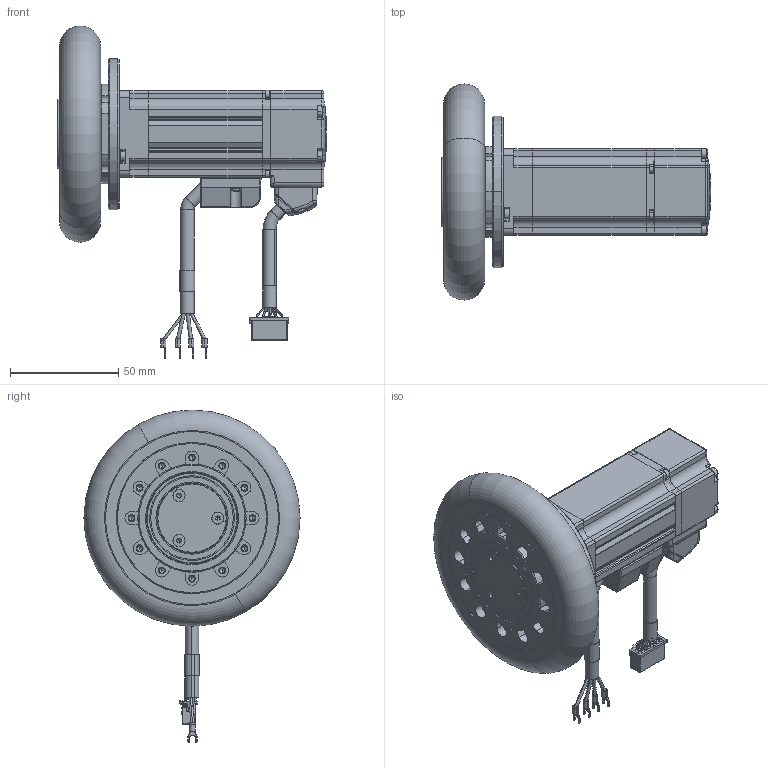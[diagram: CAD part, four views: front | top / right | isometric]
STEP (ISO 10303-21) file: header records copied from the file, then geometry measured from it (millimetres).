
FILE_DESCRIPTION((''),'2;1');
FILE_NAME('MSD100--010-30JL-0001_ASM','2026-05-20T11:24:27',('MS28159'),(''),'CREO PARAMETRIC BY PTC INC, 2018100','CREO PARAMETRIC BY PTC INC, 2018100','');
FILE_SCHEMA(('CONFIG_CONTROL_DESIGN'));
Length unit declared in the file: millimetre
Products named in the file (63): 4294404004348_-1720001_1; 4294404004348_-6520001_1; NONE_1_2_1; 4294404004348_-1310001_1; 0226-42191201014230001_1; 4294404004348_-1850001_1; 4294404004348_-1860001_1; 4294404004348_-1930001_1; 4294404004348_-1940001_1; 4294404004348_-1950001_1; AEQ-042C-004-01__X2_65E0530580F_ASM; 2_100_1-23134; 3698201102390_40SV__X2_530580_1_ASM; ASM0007_ASM_1_ASM; _1-SOLID10001_1; SOCKET_HEAD_CAP_SCREW_ISO-4-SOL; 4613103300029-1_3627410000040-1; AGV-1-SOLID10001_1; 4332101208661-1-SOLID1_1; 2-1-SOLID10001_1; 4613103300029-1_4718414002596-1; AGV-3-SOLID10001_1; 4634140203189-1-SOLID1_1; 4294440200047-1-SOLID1_1; HEXAGON_SOCKET_HEAD_CAP_S-32433; HEXAGON_SOCKET_HEAD_CAP_S-33275; SOCKET_HEAD_CAP_SCREW_ISO-2-SOL; 4219121500116-1-SOLID2_1; _1-SOLID100_1; 4613103300029-1_4294404000409-1; _466750001_1; HEXAGON_SOCKET_HEAD_CAP_S-49007; HEXAGON_SOCKET_HEAD_CAP_S-56098; _561120001_1; 4613103300029-1_4294404000419-2; _601020001_1; _608030001_1; 4219121304969-1-SOLID1_1; HEXAGON_SOCKET_HEAD_CAP_S-63983; 4613103300029-1_4219130000226-1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
Assembly tree (62 placements, depth 5):
  MSD100--010-30JL-0001_ASM
    AEQ062-XX-XX_ASM_1_ASM
      AEQ-042C-004-01__X2_65E0530580F_ASM
        4294404004348_-1720001_1
        4294404004348_-6520001_1
        NONE_1_2_1
        4294404004348_-1310001_1
        0226-42191201014230001_1
        4294404004348_-1850001_1
        4294404004348_-1860001_1
        4294404004348_-1930001_1
        4294404004348_-1940001_1
        4294404004348_-1950001_1
      ASM0007_ASM_1_ASM
        3698201102390_40SV__X2_530580_1_ASM
          2_100_1-23134
      SM0402-SL-KCY-NNV_ASM_1_ASM
        4611170001073_ASM_1_ASM
          _1-SOLID10001_1
          SOCKET_HEAD_CAP_SCREW_ISO-4-SOL
          4613103300029-1_3627410000040-1
          AGV-1-SOLID10001_1
          4332101208661-1-SOLID1_1
          2-1-SOLID10001_1
          4613103300029-1_4718414002596-1
          AGV-3-SOLID10001_1
          4634140203189-1-SOLID1_1
          4294440200047-1-SOLID1_1
          HEXAGON_SOCKET_HEAD_CAP_S-32433
          HEXAGON_SOCKET_HEAD_CAP_S-33275
          SOCKET_HEAD_CAP_SCREW_ISO-2-SOL
          4219121500116-1-SOLID2_1
          _1-SOLID100_1
          4613103300029-1_4294404000409-1
          _466750001_1
          HEXAGON_SOCKET_HEAD_CAP_S-49007
          HEXAGON_SOCKET_HEAD_CAP_S-56098
          _561120001_1
          4613103300029-1_4294404000419-2
          _601020001_1
          _608030001_1
          4219121304969-1-SOLID1_1
          HEXAGON_SOCKET_HEAD_CAP_S-63983
          4613103300029-1_4219130000226-1
          _1-SOLID20001_1
          HEXAGON_SOCKET_HEAD_CAP_S-71787
          2-1-SOLID20001_1
          5016461600-1-SOLID1_1
          AGV-2-SOLID10001_1
          4634140203189-1-SOLID2_1
          HEXAGON_SOCKET_HEAD_CAP_S-86788
          4613103300029-1_4294404000419-1
          SOCKET_HEAD_CAP_SCREW_ISO-1-SOL
          4331101000120-1-SOLID1_1
          SOCKET_HEAD_CAP_SCREW_ISO-3-SOL
          _1057200001_1
          _1073360001_1
          AGV-4-SOLID10001_1
          _1152280001_1
          4219121500116-1-SOLID1_1
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Bounding box: 124.5 x 100 x 153.57 mm (x, y, z)
Volume: 219133.9 mm3; surface area: 124678.8 mm2
Topology: 57 solids, 67 shells, 3288 faces, 8300 edges, 5185 vertices
Faces by surface type: plane 1346, cylinder 1038, cone 333, torus 235, bspline 140, sphere 138, extrusion 58
Entity records: 122246 total; most frequent: CARTESIAN_POINT 41710, DIRECTION 17054, ORIENTED_EDGE 16296, EDGE_CURVE 8148, AXIS2_PLACEMENT_3D 6495, VERTEX_POINT 5185, VECTOR 4064, LINE 4006
